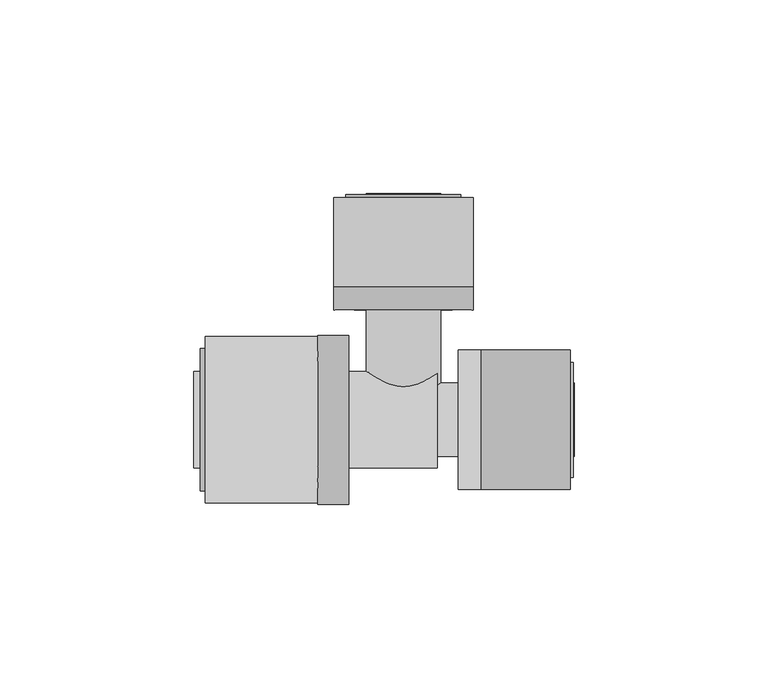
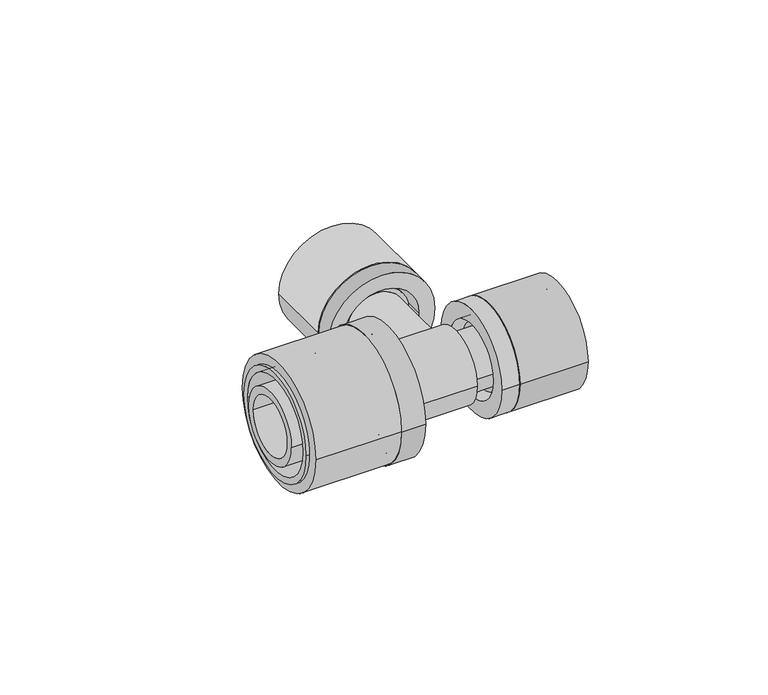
"""IFC4 building model written with IfcOpenShell, lengths in millimetres: pipe fitting geometry, FASTLOC_T-piece_LX : FSL T-Piece LX CZ."""

import ifcopenshell
import ifcopenshell.guid

model = None  # the IFC model being written
_history = None  # IfcOwnerHistory: only IFC2X3 demands one
_inside = {}  # id of a spatial element -> (the spatial element, [elements in it])
_under = {}  # id of a project, library or spatial element -> (it, [spatial elements below it])
_declared = {}  # id of a project -> (the project, [libraries it declares])
_typed = {}  # id of a type object -> (the type object, [elements of that type])
_made_of = {}  # id of a material, layer set ... -> (it, [elements and type objects made of it])


def new_model(schema):
    """Start an empty IFC model of exactly this schema.

    Asked for "IFC4X3", IfcOpenShell would pick the latest addendum, in which some entities
    have other attributes; the version numbers below select the first issue.
    IFC2X3 requires an IfcOwnerHistory on every rooted entity: one is made here for all.
    """
    global model, _history
    if schema == "IFC4X3":
        model = ifcopenshell.file(schema_version=(4, 3, 0, 0))
    else:
        model = ifcopenshell.file(schema=schema)
    _inside.clear()
    _under.clear()
    _declared.clear()
    _typed.clear()
    _made_of.clear()
    _history = None
    if model.schema == "IFC2X3":
        org = make("IfcOrganization", Name="unknown")
        user = make(
            "IfcPersonAndOrganization",
            ThePerson=make("IfcPerson", FamilyName="unknown"),
            TheOrganization=org,
        )
        app = make(
            "IfcApplication",
            ApplicationDeveloper=org,
            Version="unknown",
            ApplicationFullName="unknown",
            ApplicationIdentifier="unknown",
        )
        _history = make(
            "IfcOwnerHistory",
            OwningUser=user,
            OwningApplication=app,
            ChangeAction="ADDED",
            CreationDate=0,
        )
    return model


def make(cls, **values):
    """One entity of the class cls with the attributes given. An attribute that is None is left unset."""
    return model.create_entity(
        cls, **{name: value for name, value in values.items() if value is not None}
    )


def rooted(cls, **values):
    """An entity with a GlobalId (a new one), such as an element, a storey or a relation."""
    return make(cls, GlobalId=ifcopenshell.guid.new(), OwnerHistory=_history, **values)


def si_unit(unit_type, name, prefix=None):
    """IfcSIUnit, for example si_unit("LENGTHUNIT", "METRE", prefix="MILLI")."""
    return make("IfcSIUnit", UnitType=unit_type, Prefix=prefix, Name=name)


def assignment(units):
    """IfcUnitAssignment: the units of a project."""
    return None if units is None else make("IfcUnitAssignment", Units=units)


def point(xyz):
    """IfcCartesianPoint."""
    return None if xyz is None else make("IfcCartesianPoint", Coordinates=xyz)


def direction(xyz):
    """IfcDirection."""
    return None if xyz is None else make("IfcDirection", DirectionRatios=xyz)


def frame(location, z_axis=None, x_axis=None):
    """IfcAxis2Placement3D, a coordinate frame: its origin and axes. An axis left out is left unset."""
    return make(
        "IfcAxis2Placement3D",
        Location=point(location),
        Axis=direction(z_axis),
        RefDirection=direction(x_axis),
    )


def frame_2d(location, x_axis=None):
    """IfcAxis2Placement2D, a coordinate frame in the plane: its origin and x axis."""
    return make(
        "IfcAxis2Placement2D", Location=point(location), RefDirection=direction(x_axis)
    )


def origin():
    """The frame at (0, 0, 0) with its axes left unset."""
    return frame((0.0, 0.0, 0.0))


def origin_2d():
    """The frame at (0, 0) in the plane with its x axis left unset."""
    return frame_2d((0.0, 0.0))


def place(relative_to, where):
    """IfcLocalPlacement: puts the frame where relative to a parent placement (None: the world)."""
    return make(
        "IfcLocalPlacement", PlacementRelTo=relative_to, RelativePlacement=where
    )


def context(
    kind, dimensions, precision=None, world=None, true_north=None, identifier=None
):
    """IfcGeometricRepresentationContext, for example the 3D "Model" context."""
    return make(
        "IfcGeometricRepresentationContext",
        ContextIdentifier=identifier,
        ContextType=kind,
        CoordinateSpaceDimension=dimensions,
        Precision=precision,
        WorldCoordinateSystem=world,
        TrueNorth=true_north,
    )


def project(units=None, contexts=None):
    """IfcProject with its units and contexts."""
    return rooted(
        "IfcProject",
        Name="project",
        RepresentationContexts=contexts,
        UnitsInContext=assignment(units),
    )


def spatial(cls, under=None, at=None, **own):
    """A site, building, storey or space (cls), placed at a placement, below another one or the project."""
    s = rooted(cls, ObjectPlacement=at, **own)
    if under is not None:
        _under.setdefault(under.id(), (under, []))[1].append(s)
    return s


def polyline(points):
    """IfcPolyline through the points."""
    return make("IfcPolyline", Points=[point(p) for p in points])


def circle_curve(where, radius):
    """IfcCircle in the frame where."""
    return make("IfcCircle", Position=where, Radius=radius)


def trimmed(basis, trim1, trim2, sense, master):
    """IfcTrimmedCurve: the piece of a basis curve between two trims."""
    return make(
        "IfcTrimmedCurve",
        BasisCurve=basis,
        Trim1=trim1,
        Trim2=trim2,
        SenseAgreement=sense,
        MasterRepresentation=master,
    )


def segment(curve, same_sense, transition):
    """IfcCompositeCurveSegment."""
    return make(
        "IfcCompositeCurveSegment",
        Transition=transition,
        SameSense=same_sense,
        ParentCurve=curve,
    )


def composite_curve(segments, self_intersect=None):
    """IfcCompositeCurve: segments joined end to end."""
    return make("IfcCompositeCurve", Segments=segments, SelfIntersect=self_intersect)


def outline(outer, holes=None, kind="AREA"):
    """IfcArbitraryClosedProfileDef: a profile drawn as a closed curve; with holes, ...WithVoids."""
    if holes is None:
        return make("IfcArbitraryClosedProfileDef", ProfileType=kind, OuterCurve=outer)
    return make(
        "IfcArbitraryProfileDefWithVoids",
        ProfileType=kind,
        OuterCurve=outer,
        InnerCurves=holes,
    )


def extrude(swept, where, along, depth):
    """IfcExtrudedAreaSolid: the profile swept, set in the frame where, extruded along a direction by depth."""
    return make(
        "IfcExtrudedAreaSolid",
        SweptArea=swept,
        Position=where,
        ExtrudedDirection=direction(along),
        Depth=depth,
    )


def shape(context_of_items, identifier, shape_type, items):
    """IfcShapeRepresentation: the items that make up one representation, for example the "Body"."""
    return make(
        "IfcShapeRepresentation",
        ContextOfItems=context_of_items,
        RepresentationIdentifier=identifier,
        RepresentationType=shape_type,
        Items=items,
    )


def source(mapping_origin, context_of_items, identifier, shape_type, items):
    """IfcRepresentationMap: a shape defined once, which mapped items show again and again."""
    return make(
        "IfcRepresentationMap",
        MappingOrigin=mapping_origin,
        MappedRepresentation=shape(context_of_items, identifier, shape_type, items),
    )


def transform(
    local_origin,
    x_axis=None,
    y_axis=None,
    z_axis=None,
    scale=None,
    scale2=None,
    scale3=None,
    uniform=True,
):
    """IfcCartesianTransformationOperator3D, or its non-uniform kind. x_axis, y_axis, z_axis: its Axis1, 2, 3."""
    if uniform:
        return make(
            "IfcCartesianTransformationOperator3D",
            Axis1=direction(x_axis),
            Axis2=direction(y_axis),
            LocalOrigin=point(local_origin),
            Scale=scale,
            Axis3=direction(z_axis),
        )
    return make(
        "IfcCartesianTransformationOperator3DnonUniform",
        Axis1=direction(x_axis),
        Axis2=direction(y_axis),
        LocalOrigin=point(local_origin),
        Scale=scale,
        Axis3=direction(z_axis),
        Scale2=scale2,
        Scale3=scale3,
    )


def mapped(mapping_source, mapping_target):
    """IfcMappedItem: shows the shape of a source again, moved by a transform."""
    return make(
        "IfcMappedItem", MappingSource=mapping_source, MappingTarget=mapping_target
    )


def made_of(thing, what):
    """Note that an element or type object is made of a material, layer set ...; save() writes the relation."""
    if what is not None:
        _made_of.setdefault(what.id(), (what, []))[1].append(thing)
    return thing


def element(
    cls,
    number,
    at=None,
    inside=None,
    cuts=None,
    type_object=None,
    material=None,
    context=None,
    identifier="Body",
    shape_type=None,
    held_by="IfcProductDefinitionShape",
    body=None,
    shapes=None,
    **own,
):
    """One element of the class cls, such as IfcWall. Its Tag is "e" and its number.

    at: its placement. inside: the storey or other place that contains it. cuts: it is an
    opening in that element (IfcRelVoidsElement). A single representation is given by context,
    identifier, shape_type and body (its items); several are given by shapes. held_by: the class
    of the entity that holds the representations. save() writes the other relations.
    """
    e = rooted(cls, Tag="e%d" % number, ObjectPlacement=at, **own)
    if body is not None:
        shapes = [shape(context, identifier, shape_type, body)]
    if shapes is not None:
        e.Representation = make(held_by, Representations=shapes)
    if inside is not None:
        _inside.setdefault(inside.id(), (inside, []))[1].append(e)
    if cuts is not None:
        rooted(
            "IfcRelVoidsElement", RelatingBuildingElement=cuts, RelatedOpeningElement=e
        )
    if type_object is not None:
        _typed.setdefault(type_object.id(), (type_object, []))[1].append(e)
    return made_of(e, material)


def aggregate(whole, parts):
    """IfcRelAggregates: a whole, such as a stair, and the parts it consists of."""
    return rooted("IfcRelAggregates", RelatingObject=whole, RelatedObjects=parts)


def save(model, path):
    """Write the relations noted so far, then the file.

    IfcRelAggregates (storeys below a building ...), IfcRelContainedInSpatialStructure (elements
    in a storey), IfcRelDefinesByType, IfcRelAssociatesMaterial and IfcRelDeclares: one each for
    every whole, place, type object, material and project.
    """
    for whole, parts in _under.values():
        aggregate(whole, parts)
    for where, things in _inside.values():
        rooted(
            "IfcRelContainedInSpatialStructure",
            RelatedElements=things,
            RelatingStructure=where,
        )
    for kind, things in _typed.values():
        rooted("IfcRelDefinesByType", RelatedObjects=things, RelatingType=kind)
    for what, things in _made_of.values():
        rooted("IfcRelAssociatesMaterial", RelatedObjects=things, RelatingMaterial=what)
    for by, libraries in _declared.values():
        rooted("IfcRelDeclares", RelatingContext=by, RelatedDefinitions=libraries)
    model.write(path)


def plane_surface(at):
    """IfcPlane: the flat surface through the origin of the frame at, square to its z axis."""
    return make("IfcPlane", Position=at)


def cylinder_surface(at, radius):
    """IfcCylindricalSurface: all points at the distance radius from the z axis of the frame at."""
    return make("IfcCylindricalSurface", Position=at, Radius=radius)


def revolved_surface(curve, axis_point, axis_direction):
    """IfcSurfaceOfRevolution: the curve turned about the line through axis_point along axis_direction."""
    return make(
        "IfcSurfaceOfRevolution",
        SweptCurve=make("IfcArbitraryOpenProfileDef", ProfileType="CURVE", Curve=curve),
        AxisPosition=make("IfcAxis1Placement", Location=point(axis_point), Axis=direction(axis_direction)),
    )


def advanced_brep(points, edges, surfaces, faces):
    """IfcAdvancedBrep: a solid bounded by faces that lie on surfaces and meet in shared edges.

    An edge is (start, end): straight between two places in points (the first is 0);
    or (start, end, curve); or (start, end, curve, False) where it runs against its curve.
    A face is (place in surfaces, loops), or (place, loops, False) where it looks against
    its surface's normal. A loop lists edges by number (the first is 1), with a minus sign
    where the edge is run from its end to its start. The first loop is the outer one.
    """
    corners = [point(p) for p in points]
    vertices = [make("IfcVertexPoint", VertexGeometry=c) for c in corners]
    made = []
    for start, end, *more in edges:
        made.append(
            make(
                "IfcEdgeCurve",
                EdgeStart=vertices[start],
                EdgeEnd=vertices[end],
                EdgeGeometry=more[0] if more else make("IfcPolyline", Points=[corners[start], corners[end]]),
                SameSense=more[1] if len(more) > 1 else True,
            )
        )
    hull = []
    for where, loops, *sense in faces:
        bounds = []
        for j, loop in enumerate(loops):
            ring = [make("IfcOrientedEdge", EdgeElement=made[abs(k) - 1], Orientation=k > 0) for k in loop]
            bounds.append(
                make(
                    "IfcFaceOuterBound" if j == 0 else "IfcFaceBound",
                    Bound=make("IfcEdgeLoop", EdgeList=ring),
                    Orientation=True,
                )
            )
        hull.append(make("IfcAdvancedFace", Bounds=bounds, FaceSurface=surfaces[where], SameSense=sense[0] if sense else True))
    return make("IfcAdvancedBrep", Outer=make("IfcClosedShell", CfsFaces=hull))


def pipe_fitting_c4e8b4db(model_context):
    return source(origin(), model_context, "Body", "SolidModel", [
        extrude(outline(composite_curve([segment(trimmed(circle_curve(origin_2d(), 18.0), [point((-18.0, 0.0))], [point((18.0, 0.0))], False, "CARTESIAN"), True, "CONTINUOUS"), segment(trimmed(circle_curve(origin_2d(), 18.0), [point((18.0, 0.0))], [point((-18.0, 0.0))], False, "CARTESIAN"), True, "CONTINUOUS")], self_intersect=False), holes=[composite_curve([segment(trimmed(circle_curve(origin_2d(), 13.5), [point((-13.5, 0.0))], [point((13.5, 0.0))], True, "CARTESIAN"), True, "CONTINUOUS"), segment(trimmed(circle_curve(origin_2d(), 13.5), [point((13.5, 0.0))], [point((-13.5, 0.0))], True, "CARTESIAN"), True, "CONTINUOUS")], self_intersect=False)]), frame((20.1, 0.0, 0.0), z_axis=(1.0, 0.0, 0.0), x_axis=(0.0, 1.0, 0.0)), (0.0, 0.0, 1.0), 23.0),
        advanced_brep(
        [(20.1, 18.0, 0.0), (20.1, -18.0, 0.0), (14.1, -18.0, 0.0), (14.1, 18.0, 0.0), (43.9, 14.85, 0.0), (43.9, -14.85, 0.0), (20.1, -14.85, 0.0), (20.1, 14.85, 0.0), (14.1, 12.65, 0.0), (14.1, -12.65, 0.0), (43.9, -12.65, 0.0), (43.9, 12.65, 0.0)],
        [
            (0, 1, circle_curve(frame((20.1, 0.0, 0.0), z_axis=(-1.0, 0.0, 0.0), x_axis=(0.0, -1.0, 0.0)), 18.0)),
            (1, 2),
            (2, 3, circle_curve(frame((14.1, 0.0, 0.0), z_axis=(1.0, 0.0, 0.0), x_axis=(0.0, -1.0, 0.0)), 18.0)),
            (3, 0),
            (4, 5, circle_curve(frame((43.9, 0.0, 0.0), z_axis=(-1.0, 0.0, 0.0), x_axis=(0.0, -1.0, 0.0)), 14.85)),
            (5, 6),
            (6, 7, circle_curve(frame((20.1, 0.0, 0.0), z_axis=(1.0, 0.0, 0.0), x_axis=(0.0, -1.0, 0.0)), 14.85)),
            (7, 4),
            (8, 9, circle_curve(frame((14.1, 0.0, 0.0), z_axis=(-1.0, 0.0, 0.0), x_axis=(0.0, -1.0, 0.0)), 12.65)),
            (9, 10),
            (10, 11, circle_curve(frame((43.9, 0.0, 0.0), z_axis=(1.0, 0.0, 0.0), x_axis=(0.0, -1.0, 0.0)), 12.65)),
            (11, 8),
            (1, 0, circle_curve(frame((20.1, 0.0, 0.0), z_axis=(-1.0, 0.0, 0.0), x_axis=(0.0, 1.0, 0.0)), 18.0)),
            (3, 2, circle_curve(frame((14.1, 0.0, 0.0), z_axis=(1.0, 0.0, 0.0), x_axis=(0.0, 1.0, 0.0)), 18.0)),
            (6, 7, circle_curve(frame((20.1, 0.0, 0.0), z_axis=(-1.0, 0.0, 0.0), x_axis=(0.0, 1.0, 0.0)), 14.85)),
            (5, 4, circle_curve(frame((43.9, 0.0, 0.0), z_axis=(-1.0, 0.0, 0.0), x_axis=(0.0, 1.0, 0.0)), 14.85)),
            (10, 11, circle_curve(frame((43.9, 0.0, 0.0), z_axis=(-1.0, 0.0, 0.0), x_axis=(0.0, 1.0, 0.0)), 12.65)),
            (9, 8, circle_curve(frame((14.1, 0.0, 0.0), z_axis=(-1.0, 0.0, 0.0), x_axis=(0.0, 1.0, 0.0)), 12.65)),
        ],
        [
            cylinder_surface(frame((14.1, 0.0, 0.0), z_axis=(1.0, 0.0, 0.0), x_axis=(0.0, -1.0, 0.0)), 18.0),
            cylinder_surface(frame((14.1, 0.0, 0.0), z_axis=(1.0, 0.0, 0.0), x_axis=(0.0, -1.0, 0.0)), 14.85),
            revolved_surface(polyline([(43.9, -12.65, 0.0), (14.1, -12.65, 0.0)]), (14.1, 0.0, 0.0), (1.0, 0.0, 0.0)),
            cylinder_surface(frame((14.1, 0.0, 0.0), z_axis=(1.0, 0.0, 0.0), x_axis=(0.0, 1.0, 0.0)), 18.0),
            plane_surface(frame((20.1, 0.0, 0.0), z_axis=(1.0, 0.0, 0.0), x_axis=(0.0, 1.0, 0.0))),
            cylinder_surface(frame((14.1, 0.0, 0.0), z_axis=(1.0, 0.0, 0.0), x_axis=(0.0, 1.0, 0.0)), 14.85),
            plane_surface(frame((43.9, 0.0, 0.0), z_axis=(1.0, 0.0, 0.0), x_axis=(0.0, 1.0, 0.0))),
            revolved_surface(polyline([(43.9, 12.65, 0.0), (14.1, 12.65, 0.0)]), (14.1, 0.0, 0.0), (1.0, 0.0, 0.0)),
            plane_surface(frame((14.1, 0.0, 0.0), z_axis=(-1.0, 0.0, 0.0), x_axis=(0.0, 1.0, 0.0))),
        ],
        [
            (0, [[1, 2, 3, 4]]),
            (1, [[5, 6, 7, 8]]),
            (2, [[9, 10, 11, 12]]),
            (3, [[13, -4, 14, -2]]),
            (4, [[-13, -1], [15, -7]]),
            (5, [[16, -8, -15, -6]]),
            (6, [[-16, -5], [17, -11]]),
            (7, [[18, -12, -17, -10]]),
            (8, [[-14, -3], [-18, -9]]),
        ],
    ),
        extrude(outline(composite_curve([segment(trimmed(circle_curve(origin_2d(), 21.5), [point((21.5, 0.0))], [point((-21.5, 0.0))], False, "CARTESIAN"), True, "CONTINUOUS"), segment(trimmed(circle_curve(origin_2d(), 21.5), [point((-21.5, 0.0))], [point((21.5, 0.0))], False, "CARTESIAN"), True, "CONTINUOUS")], self_intersect=False), holes=[composite_curve([segment(trimmed(circle_curve(origin_2d(), 16.85), [point((16.85, 0.0))], [point((-16.85, 0.0))], True, "CARTESIAN"), True, "CONTINUOUS"), segment(trimmed(circle_curve(origin_2d(), 16.85), [point((-16.85, 0.0))], [point((16.85, 0.0))], True, "CARTESIAN"), True, "CONTINUOUS")], self_intersect=False)]), frame((-51.1, 0.0, 0.0), z_axis=(1.0, 0.0, 0.0), x_axis=(0.0, 1.0, 0.0)), (0.0, 0.0, 1.0), 29.0),
        advanced_brep(
        [(-22.1, -21.8, 0.0), (-22.1, 21.8, 0.0), (-14.1, 21.8, 0.0), (-14.1, -21.8, 0.0), (-52.4, -18.35, 0.0), (-52.4, 18.35, 0.0), (-22.1, 18.35, 0.0), (-22.1, -18.35, 0.0), (-14.1, -16.2, 0.0), (-14.1, 16.2, 0.0), (-52.4, 16.2, 0.0), (-52.4, -16.2, 0.0)],
        [
            (0, 1, circle_curve(frame((-22.1, 0.0, 0.0), z_axis=(1.0, 0.0, 0.0), x_axis=(0.0, 1.0, 0.0)), 21.8)),
            (1, 2),
            (2, 3, circle_curve(frame((-14.1, 0.0, 0.0), z_axis=(-1.0, 0.0, 0.0), x_axis=(0.0, 1.0, 0.0)), 21.8)),
            (3, 0),
            (4, 5, circle_curve(frame((-52.4, 0.0, 0.0), z_axis=(1.0, 0.0, 0.0), x_axis=(0.0, 1.0, 0.0)), 18.35)),
            (5, 6),
            (6, 7, circle_curve(frame((-22.1, 0.0, 0.0), z_axis=(-1.0, 0.0, 0.0), x_axis=(0.0, 1.0, 0.0)), 18.35)),
            (7, 4),
            (8, 9, circle_curve(frame((-14.1, 0.0, 0.0), z_axis=(1.0, 0.0, 0.0), x_axis=(0.0, 1.0, 0.0)), 16.2)),
            (9, 10),
            (10, 11, circle_curve(frame((-52.4, 0.0, 0.0), z_axis=(-1.0, 0.0, 0.0), x_axis=(0.0, 1.0, 0.0)), 16.2)),
            (11, 8),
            (1, 0, circle_curve(frame((-22.1, 0.0, 0.0), z_axis=(1.0, 0.0, 0.0), x_axis=(0.0, -1.0, 0.0)), 21.8)),
            (3, 2, circle_curve(frame((-14.1, 0.0, 0.0), z_axis=(-1.0, 0.0, 0.0), x_axis=(0.0, -1.0, 0.0)), 21.8)),
            (6, 7, circle_curve(frame((-22.1, 0.0, 0.0), z_axis=(1.0, 0.0, 0.0), x_axis=(0.0, -1.0, 0.0)), 18.35)),
            (5, 4, circle_curve(frame((-52.4, 0.0, 0.0), z_axis=(1.0, 0.0, 0.0), x_axis=(0.0, -1.0, 0.0)), 18.35)),
            (10, 11, circle_curve(frame((-52.4, 0.0, 0.0), z_axis=(1.0, 0.0, 0.0), x_axis=(0.0, -1.0, 0.0)), 16.2)),
            (9, 8, circle_curve(frame((-14.1, 0.0, 0.0), z_axis=(1.0, 0.0, 0.0), x_axis=(0.0, -1.0, 0.0)), 16.2)),
        ],
        [
            cylinder_surface(frame((-14.1, 0.0, 0.0), z_axis=(-1.0, 0.0, 0.0), x_axis=(0.0, 1.0, 0.0)), 21.8),
            cylinder_surface(frame((-14.1, 0.0, 0.0), z_axis=(-1.0, 0.0, 0.0), x_axis=(0.0, 1.0, 0.0)), 18.35),
            revolved_surface(polyline([(-52.4, 16.2, 0.0), (-14.1, 16.2, 0.0)]), (-14.1, 0.0, 0.0), (-1.0, 0.0, 0.0)),
            cylinder_surface(frame((-14.1, 0.0, 0.0), z_axis=(-1.0, 0.0, 0.0), x_axis=(0.0, -1.0, 0.0)), 21.8),
            plane_surface(frame((-22.1, 0.0, 0.0), z_axis=(-1.0, 0.0, 0.0), x_axis=(0.0, -1.0, 0.0))),
            cylinder_surface(frame((-14.1, 0.0, 0.0), z_axis=(-1.0, 0.0, 0.0), x_axis=(0.0, -1.0, 0.0)), 18.35),
            plane_surface(frame((-52.4, 0.0, 0.0), z_axis=(-1.0, 0.0, 0.0), x_axis=(0.0, -1.0, 0.0))),
            revolved_surface(polyline([(-52.4, -16.2, 0.0), (-14.1, -16.2, 0.0)]), (-14.1, 0.0, 0.0), (-1.0, 0.0, 0.0)),
            plane_surface(frame((-14.1, 0.0, 0.0), z_axis=(1.0, 0.0, 0.0), x_axis=(0.0, -1.0, 0.0))),
        ],
        [
            (0, [[1, 2, 3, 4]]),
            (1, [[5, 6, 7, 8]]),
            (2, [[9, 10, 11, 12]]),
            (3, [[13, -4, 14, -2]]),
            (4, [[-13, -1], [15, -7]]),
            (5, [[16, -8, -15, -6]]),
            (6, [[-16, -5], [17, -11]]),
            (7, [[18, -12, -17, -10]]),
            (8, [[-14, -3], [-18, -9]]),
        ],
    ),
        extrude(outline(composite_curve([segment(trimmed(circle_curve(origin_2d(), 18.0), [point((0.0, 18.0))], [point((0.0, -18.0))], False, "CARTESIAN"), True, "CONTINUOUS"), segment(trimmed(circle_curve(origin_2d(), 18.0), [point((0.0, -18.0))], [point((0.0, 18.0))], False, "CARTESIAN"), True, "CONTINUOUS")], self_intersect=False), holes=[composite_curve([segment(trimmed(circle_curve(origin_2d(), 13.5), [point((0.0, 13.5))], [point((0.0, -13.5))], True, "CARTESIAN"), True, "CONTINUOUS"), segment(trimmed(circle_curve(origin_2d(), 13.5), [point((0.0, -13.5))], [point((0.0, 13.5))], True, "CARTESIAN"), True, "CONTINUOUS")], self_intersect=False)]), frame((0.0, 34.4, 0.0), z_axis=(0.0, 1.0, 0.0), x_axis=(0.0, 0.0, 1.0)), (0.0, 0.0, 1.0), 23.0),
        advanced_brep(
        [(-18.0, 34.4, 0.0), (18.0, 34.4, 0.0), (18.0, 28.4, 0.0), (-18.0, 28.4, 0.0), (-14.85, 58.2, 0.0), (14.85, 58.2, 0.0), (14.85, 34.4, 0.0), (-14.85, 34.4, 0.0), (-12.65, 28.4, 0.0), (12.65, 28.4, 0.0), (12.65, 58.2, 0.0), (-12.65, 58.2, 0.0)],
        [
            (0, 1, circle_curve(frame((0.0, 34.4, 0.0), z_axis=(0.0, -1.0, 0.0), x_axis=(1.0, 0.0, 0.0)), 18.0)),
            (1, 2),
            (2, 3, circle_curve(frame((0.0, 28.4, 0.0), z_axis=(0.0, 1.0, 0.0), x_axis=(1.0, 0.0, 0.0)), 18.0)),
            (3, 0),
            (4, 5, circle_curve(frame((0.0, 58.2, 0.0), z_axis=(0.0, -1.0, 0.0), x_axis=(1.0, 0.0, 0.0)), 14.85)),
            (5, 6),
            (6, 7, circle_curve(frame((0.0, 34.4, 0.0), z_axis=(0.0, 1.0, 0.0), x_axis=(1.0, 0.0, 0.0)), 14.85)),
            (7, 4),
            (8, 9, circle_curve(frame((0.0, 28.4, 0.0), z_axis=(0.0, -1.0, 0.0), x_axis=(1.0, 0.0, 0.0)), 12.65)),
            (9, 10),
            (10, 11, circle_curve(frame((0.0, 58.2, 0.0), z_axis=(0.0, 1.0, 0.0), x_axis=(1.0, 0.0, 0.0)), 12.65)),
            (11, 8),
            (1, 0, circle_curve(frame((0.0, 34.4, 0.0), z_axis=(0.0, -1.0, 0.0), x_axis=(-1.0, 0.0, 0.0)), 18.0)),
            (3, 2, circle_curve(frame((0.0, 28.4, 0.0), z_axis=(0.0, 1.0, 0.0), x_axis=(-1.0, 0.0, 0.0)), 18.0)),
            (6, 7, circle_curve(frame((0.0, 34.4, 0.0), z_axis=(0.0, -1.0, 0.0), x_axis=(-1.0, 0.0, 0.0)), 14.85)),
            (5, 4, circle_curve(frame((0.0, 58.2, 0.0), z_axis=(0.0, -1.0, 0.0), x_axis=(-1.0, 0.0, 0.0)), 14.85)),
            (10, 11, circle_curve(frame((0.0, 58.2, 0.0), z_axis=(0.0, -1.0, 0.0), x_axis=(-1.0, 0.0, 0.0)), 12.65)),
            (9, 8, circle_curve(frame((0.0, 28.4, 0.0), z_axis=(0.0, -1.0, 0.0), x_axis=(-1.0, 0.0, 0.0)), 12.65)),
        ],
        [
            cylinder_surface(frame((0.0, 28.4, 0.0), z_axis=(0.0, 1.0, 0.0), x_axis=(1.0, 0.0, 0.0)), 18.0),
            cylinder_surface(frame((0.0, 28.4, 0.0), z_axis=(0.0, 1.0, 0.0), x_axis=(1.0, 0.0, 0.0)), 14.85),
            revolved_surface(polyline([(12.65, 58.2, 0.0), (12.65, 28.4, 0.0)]), (0.0, 28.4, 0.0), (0.0, 1.0, 0.0)),
            cylinder_surface(frame((0.0, 28.4, 0.0), z_axis=(0.0, 1.0, 0.0), x_axis=(-1.0, 0.0, 0.0)), 18.0),
            plane_surface(frame((0.0, 34.4, 0.0), z_axis=(0.0, 1.0, 0.0), x_axis=(-1.0, 0.0, 0.0))),
            cylinder_surface(frame((0.0, 28.4, 0.0), z_axis=(0.0, 1.0, 0.0), x_axis=(-1.0, 0.0, 0.0)), 14.85),
            plane_surface(frame((0.0, 58.2, 0.0), z_axis=(0.0, 1.0, 0.0), x_axis=(-1.0, 0.0, 0.0))),
            revolved_surface(polyline([(-12.65, 58.2, 0.0), (-12.65, 28.4, 0.0)]), (0.0, 28.4, 0.0), (0.0, 1.0, 0.0)),
            plane_surface(frame((0.0, 28.4, 0.0), z_axis=(0.0, -1.0, 0.0), x_axis=(-1.0, 0.0, 0.0))),
        ],
        [
            (0, [[1, 2, 3, 4]]),
            (1, [[5, 6, 7, 8]]),
            (2, [[9, 10, 11, 12]]),
            (3, [[13, -4, 14, -2]]),
            (4, [[-13, -1], [15, -7]]),
            (5, [[16, -8, -15, -6]]),
            (6, [[-16, -5], [17, -11]]),
            (7, [[18, -12, -17, -10]]),
            (8, [[-14, -3], [-18, -9]]),
        ],
    ),
        advanced_brep(
        [(17.3, 9.45, 0.0), (17.3, -9.45, 0.0), (8.75, -9.45, 0.0), (8.75, 9.45, 0.0), (20.1, 10.95, 0.0), (20.1, -10.95, 0.0), (17.3, -10.95, 0.0), (17.3, 10.95, 0.0), (44.1, 9.45, 0.0), (44.1, -9.45, 0.0), (20.1, -9.45, 0.0), (20.1, 9.45, 0.0), (6.5, 7.2, 0.0), (6.5, -7.2, 0.0), (44.1, -7.2, 0.0), (44.1, 7.2, 0.0), (-54.1, 9.85, 0.0), (-54.1, -9.85, 0.0), (6.5, -9.85, 0.0), (6.5, 9.85, 0.0), (-22.1, 12.5, 0.0), (-22.1, -12.5, 0.0), (-54.1, -12.5, 0.0), (-54.1, 12.5, 0.0), (-19.1, 14.1, 0.0), (-19.1, -14.1, 0.0), (-22.1, -14.1, 0.0), (-22.1, 14.1, 0.0), (8.75, 12.5, 0.0), (8.75, -12.5, 0.0), (-19.1, -12.5, 0.0), (-19.1, 12.5, 0.0)],
        [
            (0, 1, circle_curve(frame((17.3, 0.0, 0.0), z_axis=(-1.0, 0.0, 0.0), x_axis=(0.0, -1.0, 0.0)), 9.45)),
            (1, 2),
            (2, 3, circle_curve(frame((8.75, 0.0, 0.0), z_axis=(1.0, 0.0, 0.0), x_axis=(0.0, -1.0, 0.0)), 9.45)),
            (3, 0),
            (4, 5, circle_curve(frame((20.1, 0.0, 0.0), z_axis=(-1.0, 0.0, 0.0), x_axis=(0.0, -1.0, 0.0)), 10.95)),
            (5, 6),
            (6, 7, circle_curve(frame((17.3, 0.0, 0.0), z_axis=(1.0, 0.0, 0.0), x_axis=(0.0, -1.0, 0.0)), 10.95)),
            (7, 4),
            (8, 9, circle_curve(frame((44.1, 0.0, 0.0), z_axis=(-1.0, 0.0, 0.0), x_axis=(0.0, -1.0, 0.0)), 9.45)),
            (9, 10),
            (10, 11, circle_curve(frame((20.1, 0.0, 0.0), z_axis=(1.0, 0.0, 0.0), x_axis=(0.0, -1.0, 0.0)), 9.45)),
            (11, 8),
            (12, 13, circle_curve(frame((6.5, 0.0, 0.0), z_axis=(-1.0, 0.0, 0.0), x_axis=(0.0, -1.0, 0.0)), 7.2)),
            (13, 14),
            (14, 15, circle_curve(frame((44.1, 0.0, 0.0), z_axis=(1.0, 0.0, 0.0), x_axis=(0.0, -1.0, 0.0)), 7.2)),
            (15, 12),
            (16, 17, circle_curve(frame((-54.1, 0.0, 0.0), z_axis=(-1.0, 0.0, 0.0), x_axis=(0.0, -1.0, 0.0)), 9.85)),
            (17, 18),
            (18, 19, circle_curve(frame((6.5, 0.0, 0.0), z_axis=(1.0, 0.0, 0.0), x_axis=(0.0, -1.0, 0.0)), 9.85)),
            (19, 16),
            (20, 21, circle_curve(frame((-22.1, 0.0, 0.0), z_axis=(-1.0, 0.0, 0.0), x_axis=(0.0, -1.0, 0.0)), 12.5)),
            (21, 22),
            (22, 23, circle_curve(frame((-54.1, 0.0, 0.0), z_axis=(1.0, 0.0, 0.0), x_axis=(0.0, -1.0, 0.0)), 12.5)),
            (23, 20),
            (24, 25, circle_curve(frame((-19.1, 0.0, 0.0), z_axis=(-1.0, 0.0, 0.0), x_axis=(0.0, -1.0, 0.0)), 14.1)),
            (25, 26),
            (26, 27, circle_curve(frame((-22.1, 0.0, 0.0), z_axis=(1.0, 0.0, 0.0), x_axis=(0.0, -1.0, 0.0)), 14.1)),
            (27, 24),
            (28, 29, circle_curve(frame((8.75, 0.0, 0.0), z_axis=(-1.0, 0.0, 0.0), x_axis=(0.0, -1.0, 0.0)), 12.5)),
            (29, 30),
            (30, 31, circle_curve(frame((-19.1, 0.0, 0.0), z_axis=(1.0, 0.0, 0.0), x_axis=(0.0, -1.0, 0.0)), 12.5)),
            (31, 28),
            (28, 29, circle_curve(frame((8.75, 0.0, 0.0), z_axis=(1.0, 0.0, 0.0), x_axis=(0.0, 1.0, 0.0)), 12.5)),
            (2, 3, circle_curve(frame((8.75, 0.0, 0.0), z_axis=(-1.0, 0.0, 0.0), x_axis=(0.0, 1.0, 0.0)), 9.45)),
            (1, 0, circle_curve(frame((17.3, 0.0, 0.0), z_axis=(-1.0, 0.0, 0.0), x_axis=(0.0, 1.0, 0.0)), 9.45)),
            (6, 7, circle_curve(frame((17.3, 0.0, 0.0), z_axis=(-1.0, 0.0, 0.0), x_axis=(0.0, 1.0, 0.0)), 10.95)),
            (5, 4, circle_curve(frame((20.1, 0.0, 0.0), z_axis=(-1.0, 0.0, 0.0), x_axis=(0.0, 1.0, 0.0)), 10.95)),
            (10, 11, circle_curve(frame((20.1, 0.0, 0.0), z_axis=(-1.0, 0.0, 0.0), x_axis=(0.0, 1.0, 0.0)), 9.45)),
            (9, 8, circle_curve(frame((44.1, 0.0, 0.0), z_axis=(-1.0, 0.0, 0.0), x_axis=(0.0, 1.0, 0.0)), 9.45)),
            (14, 15, circle_curve(frame((44.1, 0.0, 0.0), z_axis=(-1.0, 0.0, 0.0), x_axis=(0.0, 1.0, 0.0)), 7.2)),
            (13, 12, circle_curve(frame((6.5, 0.0, 0.0), z_axis=(-1.0, 0.0, 0.0), x_axis=(0.0, 1.0, 0.0)), 7.2)),
            (18, 19, circle_curve(frame((6.5, 0.0, 0.0), z_axis=(-1.0, 0.0, 0.0), x_axis=(0.0, 1.0, 0.0)), 9.85)),
            (17, 16, circle_curve(frame((-54.1, 0.0, 0.0), z_axis=(-1.0, 0.0, 0.0), x_axis=(0.0, 1.0, 0.0)), 9.85)),
            (22, 23, circle_curve(frame((-54.1, 0.0, 0.0), z_axis=(-1.0, 0.0, 0.0), x_axis=(0.0, 1.0, 0.0)), 12.5)),
            (21, 20, circle_curve(frame((-22.1, 0.0, 0.0), z_axis=(-1.0, 0.0, 0.0), x_axis=(0.0, 1.0, 0.0)), 12.5)),
            (26, 27, circle_curve(frame((-22.1, 0.0, 0.0), z_axis=(-1.0, 0.0, 0.0), x_axis=(0.0, 1.0, 0.0)), 14.1)),
            (25, 24, circle_curve(frame((-19.1, 0.0, 0.0), z_axis=(-1.0, 0.0, 0.0), x_axis=(0.0, 1.0, 0.0)), 14.1)),
            (30, 31, circle_curve(frame((-19.1, 0.0, 0.0), z_axis=(-1.0, 0.0, 0.0), x_axis=(0.0, 1.0, 0.0)), 12.5)),
        ],
        [
            cylinder_surface(frame((0.0, 0.0, 0.0), z_axis=(1.0, 0.0, 0.0), x_axis=(0.0, -1.0, 0.0)), 9.45),
            cylinder_surface(frame((0.0, 0.0, 0.0), z_axis=(1.0, 0.0, 0.0), x_axis=(0.0, -1.0, 0.0)), 10.95),
            revolved_surface(polyline([(44.1, -7.2, 0.0), (6.5, -7.2, 0.0)]), (0.0, 0.0, 0.0), (1.0, 0.0, 0.0)),
            revolved_surface(polyline([(6.5, -9.85, 0.0), (-54.1, -9.85, 0.0)]), (0.0, 0.0, 0.0), (1.0, 0.0, 0.0)),
            cylinder_surface(frame((0.0, 0.0, 0.0), z_axis=(1.0, 0.0, 0.0), x_axis=(0.0, -1.0, 0.0)), 12.5),
            cylinder_surface(frame((0.0, 0.0, 0.0), z_axis=(1.0, 0.0, 0.0), x_axis=(0.0, -1.0, 0.0)), 14.1),
            plane_surface(frame((8.75, 0.0, 0.0), z_axis=(1.0, 0.0, 0.0), x_axis=(0.0, 1.0, 0.0))),
            cylinder_surface(frame((0.0, 0.0, 0.0), z_axis=(1.0, 0.0, 0.0), x_axis=(0.0, 1.0, 0.0)), 9.45),
            plane_surface(frame((17.3, 0.0, 0.0), z_axis=(-1.0, 0.0, 0.0), x_axis=(0.0, 1.0, 0.0))),
            cylinder_surface(frame((0.0, 0.0, 0.0), z_axis=(1.0, 0.0, 0.0), x_axis=(0.0, 1.0, 0.0)), 10.95),
            plane_surface(frame((20.1, 0.0, 0.0), z_axis=(1.0, 0.0, 0.0), x_axis=(0.0, 1.0, 0.0))),
            plane_surface(frame((44.1, 0.0, 0.0), z_axis=(1.0, 0.0, 0.0), x_axis=(0.0, 1.0, 0.0))),
            revolved_surface(polyline([(44.1, 7.2, 0.0), (6.5, 7.2, 0.0)]), (0.0, 0.0, 0.0), (1.0, 0.0, 0.0)),
            plane_surface(frame((6.5, 0.0, 0.0), z_axis=(-1.0, 0.0, 0.0), x_axis=(0.0, 1.0, 0.0))),
            revolved_surface(polyline([(6.5, 9.85, 0.0), (-54.1, 9.85, 0.0)]), (0.0, 0.0, 0.0), (1.0, 0.0, 0.0)),
            plane_surface(frame((-54.1, 0.0, 0.0), z_axis=(-1.0, 0.0, 0.0), x_axis=(0.0, 1.0, 0.0))),
            cylinder_surface(frame((0.0, 0.0, 0.0), z_axis=(1.0, 0.0, 0.0), x_axis=(0.0, 1.0, 0.0)), 12.5),
            plane_surface(frame((-22.1, 0.0, 0.0), z_axis=(-1.0, 0.0, 0.0), x_axis=(0.0, 1.0, 0.0))),
            cylinder_surface(frame((0.0, 0.0, 0.0), z_axis=(1.0, 0.0, 0.0), x_axis=(0.0, 1.0, 0.0)), 14.1),
            plane_surface(frame((-19.1, 0.0, 0.0), z_axis=(1.0, 0.0, 0.0), x_axis=(0.0, 1.0, 0.0))),
        ],
        [
            (0, [[1, 2, 3, 4]]),
            (1, [[5, 6, 7, 8]]),
            (0, [[9, 10, 11, 12]]),
            (2, [[13, 14, 15, 16]]),
            (3, [[17, 18, 19, 20]]),
            (4, [[21, 22, 23, 24]]),
            (5, [[25, 26, 27, 28]]),
            (4, [[29, 30, 31, 32]]),
            (6, [[33, -29], [34, -3]]),
            (7, [[35, -4, -34, -2]]),
            (8, [[36, -7], [-35, -1]]),
            (9, [[37, -8, -36, -6]]),
            (10, [[-37, -5], [38, -11]]),
            (7, [[39, -12, -38, -10]]),
            (11, [[-39, -9], [40, -15]]),
            (12, [[41, -16, -40, -14]]),
            (13, [[42, -19], [-41, -13]]),
            (14, [[43, -20, -42, -18]]),
            (15, [[44, -23], [-43, -17]]),
            (16, [[45, -24, -44, -22]]),
            (17, [[46, -27], [-45, -21]]),
            (18, [[47, -28, -46, -26]]),
            (19, [[-47, -25], [48, -31]]),
            (16, [[-33, -32, -48, -30]]),
        ],
    ),
        advanced_brep(
        [(7.35, 58.4, 0.0), (-7.35, 58.4, 0.0), (-7.35, 0.0, 0.0), (7.35, 0.0, 0.0), (9.6, 0.0, 0.0), (-9.6, 0.0, 0.0), (-9.6, 31.6, 0.0), (9.6, 31.6, 0.0), (11.1, 31.6, 0.0), (-11.1, 31.6, 0.0), (-11.1, 34.4, 0.0), (11.1, 34.4, 0.0), (9.6, 34.4, 0.0), (-9.6, 34.4, 0.0), (-9.6, 58.4, 0.0), (9.6, 58.4, 0.0)],
        [
            (0, 1, circle_curve(frame((0.0, 58.4, 0.0), z_axis=(0.0, 1.0, 0.0), x_axis=(-1.0, 0.0, 0.0)), 7.35)),
            (1, 2),
            (2, 3, circle_curve(frame((0.0, 0.0, 0.0), z_axis=(0.0, -1.0, 0.0), x_axis=(-1.0, 0.0, 0.0)), 7.35)),
            (3, 0),
            (4, 5, circle_curve(frame((0.0, 0.0, 0.0), z_axis=(0.0, 1.0, 0.0), x_axis=(-1.0, 0.0, 0.0)), 9.6)),
            (5, 6),
            (6, 7, circle_curve(frame((0.0, 31.6, 0.0), z_axis=(0.0, -1.0, 0.0), x_axis=(-1.0, 0.0, 0.0)), 9.6)),
            (7, 4),
            (8, 9, circle_curve(frame((0.0, 31.6, 0.0), z_axis=(0.0, 1.0, 0.0), x_axis=(-1.0, 0.0, 0.0)), 11.1)),
            (9, 10),
            (10, 11, circle_curve(frame((0.0, 34.4, 0.0), z_axis=(0.0, -1.0, 0.0), x_axis=(-1.0, 0.0, 0.0)), 11.1)),
            (11, 8),
            (12, 13, circle_curve(frame((0.0, 34.4, 0.0), z_axis=(0.0, 1.0, 0.0), x_axis=(-1.0, 0.0, 0.0)), 9.6)),
            (13, 14),
            (14, 15, circle_curve(frame((0.0, 58.4, 0.0), z_axis=(0.0, -1.0, 0.0), x_axis=(-1.0, 0.0, 0.0)), 9.6)),
            (15, 12),
            (1, 0, circle_curve(frame((0.0, 58.4, 0.0), z_axis=(0.0, 1.0, 0.0), x_axis=(1.0, 0.0, 0.0)), 7.35)),
            (3, 2, circle_curve(frame((0.0, 0.0, 0.0), z_axis=(0.0, -1.0, 0.0), x_axis=(1.0, 0.0, 0.0)), 7.35)),
            (4, 5, circle_curve(frame((0.0, 0.0, 0.0), z_axis=(0.0, -1.0, 0.0), x_axis=(1.0, 0.0, 0.0)), 9.6)),
            (7, 6, circle_curve(frame((0.0, 31.6, 0.0), z_axis=(0.0, -1.0, 0.0), x_axis=(1.0, 0.0, 0.0)), 9.6)),
            (8, 9, circle_curve(frame((0.0, 31.6, 0.0), z_axis=(0.0, -1.0, 0.0), x_axis=(1.0, 0.0, 0.0)), 11.1)),
            (11, 10, circle_curve(frame((0.0, 34.4, 0.0), z_axis=(0.0, -1.0, 0.0), x_axis=(1.0, 0.0, 0.0)), 11.1)),
            (12, 13, circle_curve(frame((0.0, 34.4, 0.0), z_axis=(0.0, -1.0, 0.0), x_axis=(1.0, 0.0, 0.0)), 9.6)),
            (15, 14, circle_curve(frame((0.0, 58.4, 0.0), z_axis=(0.0, -1.0, 0.0), x_axis=(1.0, 0.0, 0.0)), 9.6)),
        ],
        [
            revolved_surface(polyline([(-7.35, 0.0, 0.0), (-7.35, 58.4, 0.0)]), (0.0, 0.0, 0.0), (0.0, -1.0, 0.0)),
            cylinder_surface(frame((0.0, 0.0, 0.0), z_axis=(0.0, -1.0, 0.0), x_axis=(-1.0, 0.0, 0.0)), 9.6),
            cylinder_surface(frame((0.0, 0.0, 0.0), z_axis=(0.0, -1.0, 0.0), x_axis=(-1.0, 0.0, 0.0)), 11.1),
            revolved_surface(polyline([(7.35, 0.0, 0.0), (7.35, 58.4, 0.0)]), (0.0, 0.0, 0.0), (0.0, -1.0, 0.0)),
            plane_surface(frame((0.0, 0.0, 0.0), z_axis=(0.0, -1.0, 0.0), x_axis=(1.0, 0.0, 0.0))),
            cylinder_surface(frame((0.0, 0.0, 0.0), z_axis=(0.0, -1.0, 0.0), x_axis=(1.0, 0.0, 0.0)), 9.6),
            plane_surface(frame((0.0, 31.6, 0.0), z_axis=(0.0, -1.0, 0.0), x_axis=(1.0, 0.0, 0.0))),
            cylinder_surface(frame((0.0, 0.0, 0.0), z_axis=(0.0, -1.0, 0.0), x_axis=(1.0, 0.0, 0.0)), 11.1),
            plane_surface(frame((0.0, 34.4, 0.0), z_axis=(0.0, 1.0, 0.0), x_axis=(1.0, 0.0, 0.0))),
            plane_surface(frame((0.0, 58.4, 0.0), z_axis=(0.0, 1.0, 0.0), x_axis=(1.0, 0.0, 0.0))),
        ],
        [
            (0, [[1, 2, 3, 4]]),
            (1, [[5, 6, 7, 8]]),
            (2, [[9, 10, 11, 12]]),
            (1, [[13, 14, 15, 16]]),
            (3, [[17, -4, 18, -2]]),
            (4, [[19, -5], [-18, -3]]),
            (5, [[-19, -8, 20, -6]]),
            (6, [[21, -9], [-20, -7]]),
            (7, [[-21, -12, 22, -10]]),
            (8, [[-22, -11], [23, -13]]),
            (5, [[-23, -16, 24, -14]]),
            (9, [[-24, -15], [-17, -1]]),
        ],
    ),
    ])


if __name__ == "__main__":
    model = new_model("IFC4")
    model_context = context("Model", 3, world=origin())
    ifc_project = project(units=[si_unit("LENGTHUNIT", "METRE", prefix="MILLI")], contexts=[model_context])
    site = spatial("IfcSite", under=ifc_project)
    building = spatial("IfcBuilding", under=site)
    placement = place(None, origin())
    pipe_fitting_shape = pipe_fitting_c4e8b4db(model_context)
    element("IfcPipeFitting", 1, ObjectType="FASTLOC_T-piece_LX : FSL T-Piece LX CZ", at=placement, inside=building, context=model_context, shape_type="MappedRepresentation", body=[
        mapped(pipe_fitting_shape, transform((0.0, 0.0, 0.0), x_axis=(1.0, 0.0, 0.0), y_axis=(0.0, 1.0, 0.0), z_axis=(0.0, 0.0, 1.0))),
    ])
    save(model, "model.ifc")
